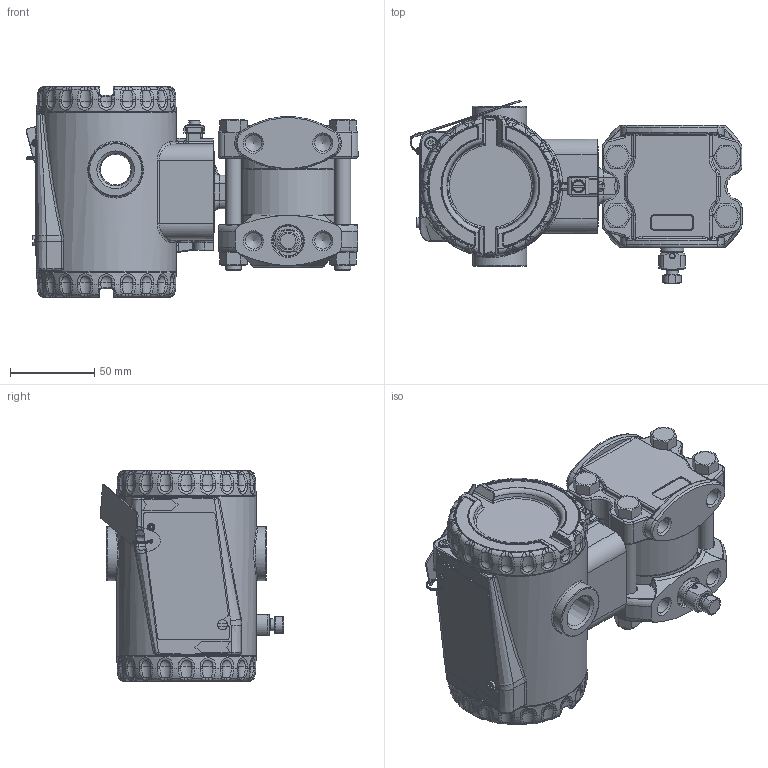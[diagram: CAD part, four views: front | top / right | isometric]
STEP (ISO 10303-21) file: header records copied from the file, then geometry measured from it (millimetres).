
FILE_DESCRIPTION(/* description */ (''),/* implementation_level */ '2;1');
FILE_NAME(/* name */ 'F:\Area\Desenvolvimento_2\Projects\Sensor\projetos\LD400-3d\dimensionais 3D clientes\LD400M5 1-4NPT Monel purga oposta.stp',/* time_stamp */ '2023-02-02T14:22:54-03:00',/* author */ ('inventor02'),/* organization */ (''),/* preprocessor_version */ 'ST-DEVELOPER v17',/* originating_system */ 'Autodesk Inventor 2019',/* authorisation */ '');
FILE_SCHEMA (('CONFIG_CONTROL_DESIGN'));
Products named in the file (30): LD400M5 1-4NPT Monel purga oposta; Carcaça 400 com tampas e plaqueta sem letras; 101-D-0845-05 carcaça LD400 sem letras; 101-B-3614-03-tampa 400 sem letras; Tampa visor 400 montada sem letras; 101-B-3612-05 tampa visor 400 sem letras; 101-A-6107; oring 2034; 00034775-0; WHW_250; DIN 915 - M6 x 10; Chapa aterramento externo; 201-A-1771-02 inserto terra recartilhado; AS 1969 - ST4,2; ISO 1207 - M4 x 8; ANSI B18.3.1M - M4x0,7 x 8; Subconjunto plaqueta 400; plaqueta 400 em branco; Parafuso da Plaqueta; Rebite da Plaqueta; 096-A-0169-03; 101-A-0502-01; manometrico FX5 monel purga oposta; involucro fx5 apos a usinagem final; 101-C-0040-05 monel barra 7-16; 096-C-0014-13 manom reforçado; Paraf. 3-8 x 16 UNC; Porca 3-8 x 16 UNC; 075-B-0046-purgador; Sangria
Assembly tree (36 placements, depth 4):
  LD400M5 1-4NPT Monel purga oposta
    Carcaça 400 com tampas e plaqueta sem letras
      101-D-0845-05 carcaça LD400 sem letras
      101-B-3614-03-tampa 400 sem letras
      Tampa visor 400 montada sem letras
        101-B-3612-05 tampa visor 400 sem letras
        101-A-6107
        oring 2034
        00034775-0
        WHW_250
      DIN 915 - M6 x 10
      Chapa aterramento externo
      201-A-1771-02 inserto terra recartilhado
      AS 1969 - ST4,2
      ISO 1207 - M4 x 8
      ANSI B18.3.1M - M4x0,7 x 8  x2
      Subconjunto plaqueta 400
        plaqueta 400 em branco
        Parafuso da Plaqueta
        Rebite da Plaqueta
        096-A-0169-03
        101-A-0502-01
    manometrico FX5 monel purga oposta
      involucro fx5 apos a usinagem final
      101-C-0040-05 monel barra 7-16
      096-C-0014-13 manom reforçado
      Paraf. 3-8 x 16 UNC  x4
      Porca 3-8 x 16 UNC  x4
      075-B-0046-purgador
      Sangria
Bounding box: 197.27 x 108.89 x 125 mm (x, y, z)
Volume: 642531.4 mm3; surface area: 236452.2 mm2
Topology: 32 solids, 32 shells, 2353 faces, 5784 edges, 3487 vertices
Faces by surface type: plane 615, cylinder 555, bspline 525, torus 397, cone 204, sphere 57
Full cylindrical faces by diameter (mm): 2 x2, 2.1 x1, 2.2 x1, 2.459 x3, 2.7 x1, 3 x3, 3.242 x3, 3.571 x1, 4 x4, 4.3 x2, 4.4 x1, 4.917 x1, 5 x2, 5.5 x1, 6 x2, 6.1 x2, 6.2 x1, 6.8 x1, 7 x3, 7.6 x2, 7.798 x4, 8 x1, 9.525 x4, 9.728 x8, 10.5 x8, 10.719 x2, 12 x1, 13.8 x1, 14 x1, 18.3 x2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
Entity records: 87072 total; most frequent: CARTESIAN_POINT 34502, ORIENTED_EDGE 11038, DIRECTION 10597, EDGE_CURVE 5519, AXIS2_PLACEMENT_3D 4487, VERTEX_POINT 3353, CIRCLE 2601, EDGE_LOOP 2366
